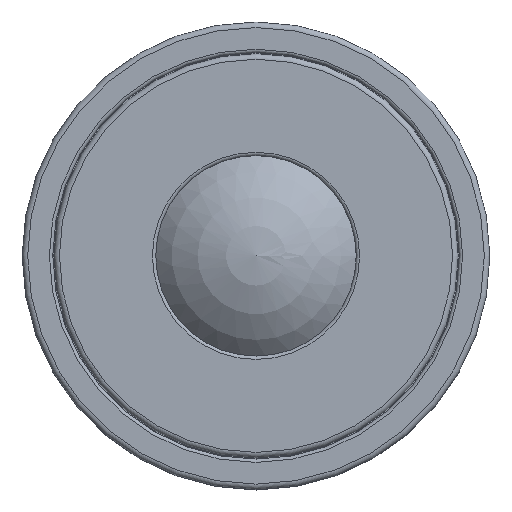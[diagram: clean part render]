
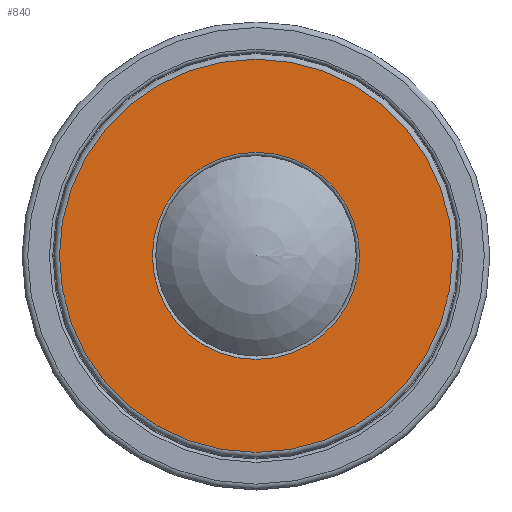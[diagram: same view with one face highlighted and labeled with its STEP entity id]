
A CAD part, top view. The second image highlights one B-rep face of the part: STEP entity #840.
In plain terms, the highlighted planar face has unit normal (0, 0, 1).
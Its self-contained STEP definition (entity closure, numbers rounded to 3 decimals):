
#151=PLANE('',#956);
#190=FACE_BOUND('',#349,.T.);
#250=FACE_OUTER_BOUND('',#348,.T.);
#348=EDGE_LOOP('',(#739));
#349=EDGE_LOOP('',(#740));
#412=CIRCLE('',#955,9.3);
#413=CIRCLE('',#957,17.65);
#477=VERTEX_POINT('',#1466);
#478=VERTEX_POINT('',#1469);
#570=EDGE_CURVE('',#477,#477,#412,.T.);
#571=EDGE_CURVE('',#478,#478,#413,.T.);
#739=ORIENTED_EDGE('',*,*,#571,.F.);
#740=ORIENTED_EDGE('',*,*,#570,.T.);
#840=ADVANCED_FACE('',(#250,#190),#151,.T.);
#955=AXIS2_PLACEMENT_3D('',#1467,#1185,#1186);
#956=AXIS2_PLACEMENT_3D('',#1468,#1187,#1188);
#957=AXIS2_PLACEMENT_3D('',#1470,#1189,#1190);
#1185=DIRECTION('center_axis',(0.,0.,-1.));
#1186=DIRECTION('ref_axis',(0.,1.,0.));
#1187=DIRECTION('center_axis',(0.,0.,1.));
#1188=DIRECTION('ref_axis',(1.,0.,0.));
#1189=DIRECTION('center_axis',(0.,0.,-1.));
#1190=DIRECTION('ref_axis',(0.,1.,0.));
#1466=CARTESIAN_POINT('',(0.,9.3,39.));
#1467=CARTESIAN_POINT('Origin',(0.,0.,39.));
#1468=CARTESIAN_POINT('Origin',(0.,13.475,39.));
#1469=CARTESIAN_POINT('',(0.,17.65,39.));
#1470=CARTESIAN_POINT('Origin',(0.,0.,39.));
